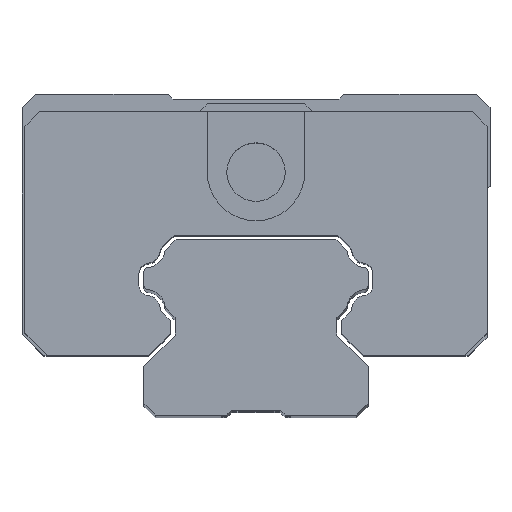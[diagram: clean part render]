
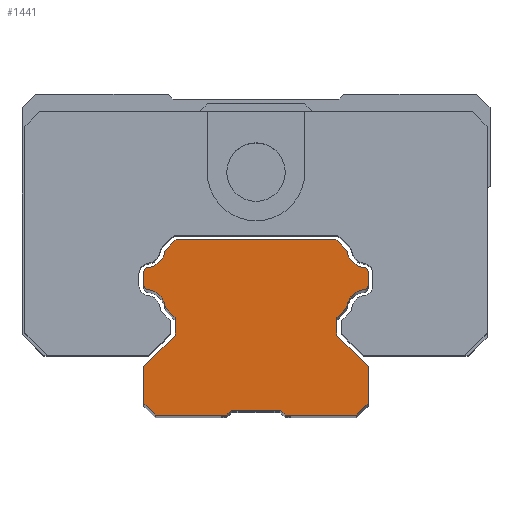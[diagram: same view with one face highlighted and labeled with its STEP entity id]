
A CAD part, top view. The second image highlights one B-rep face of the part: STEP entity #1441.
In plain terms, the highlighted planar face has unit normal (0, 0, 1).
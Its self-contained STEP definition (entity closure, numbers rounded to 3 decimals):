
#1=DIRECTION('',(0.,-1.,0.));
#2=VECTOR('',#1,1.8);
#3=CARTESIAN_POINT('',(-8.3,-8.,60.));
#4=LINE('',#3,#2);
#41=DIRECTION('',(0.,-1.,0.));
#42=VECTOR('',#41,1.289);
#43=CARTESIAN_POINT('',(-11.5,-3.365,60.));
#44=LINE('',#43,#42);
#73=DIRECTION('',(-1.,0.,0.));
#74=VECTOR('',#73,16.392);
#75=CARTESIAN_POINT('',(8.196,0.,60.));
#76=LINE('',#75,#74);
#143=DIRECTION('',(0.,1.,0.));
#144=VECTOR('',#143,1.289);
#145=CARTESIAN_POINT('',(11.5,-4.654,60.));
#146=LINE('',#145,#144);
#175=DIRECTION('',(0.,1.,0.));
#176=VECTOR('',#175,1.8);
#177=CARTESIAN_POINT('',(8.3,-9.8,60.));
#178=LINE('',#177,#176);
#315=DIRECTION('',(0.,-1.,0.));
#316=VECTOR('',#315,3.8);
#317=CARTESIAN_POINT('',(-11.5,-13.,60.));
#318=LINE('',#317,#316);
#319=CARTESIAN_POINT('',(11.,-3.365,60.));
#320=DIRECTION('',(0.,0.,-1.));
#321=DIRECTION('',(0.121,0.993,0.));
#322=AXIS2_PLACEMENT_3D('',#319,#320,#321);
#324=CARTESIAN_POINT('',(11.,-4.654,60.));
#325=DIRECTION('',(0.,0.,-1.));
#326=DIRECTION('',(1.,0.,0.));
#327=AXIS2_PLACEMENT_3D('',#324,#325,#326);
#329=CARTESIAN_POINT('',(11.3,-7.136,60.));
#330=DIRECTION('',(0.,0.,1.));
#331=DIRECTION('',(-0.12,0.993,0.));
#332=AXIS2_PLACEMENT_3D('',#329,#330,#331);
#334=DIRECTION('',(-0.707,-0.707,0.));
#335=VECTOR('',#334,1.421);
#336=CARTESIAN_POINT('',(9.305,-6.995,60.));
#337=LINE('',#336,#335);
#338=DIRECTION('',(0.707,-0.707,0.));
#339=VECTOR('',#338,4.525);
#340=CARTESIAN_POINT('',(8.3,-9.8,60.));
#341=LINE('',#340,#339);
#342=DIRECTION('',(-0.707,-0.707,0.));
#343=VECTOR('',#342,1.697);
#344=CARTESIAN_POINT('',(11.5,-16.8,60.));
#345=LINE('',#344,#343);
#346=DIRECTION('',(-0.707,0.707,0.));
#347=VECTOR('',#346,0.707);
#348=CARTESIAN_POINT('',(3.,-18.,60.));
#349=LINE('',#348,#347);
#350=DIRECTION('',(-0.707,-0.707,0.));
#351=VECTOR('',#350,0.707);
#352=CARTESIAN_POINT('',(-2.5,-17.5,60.));
#353=LINE('',#352,#351);
#354=DIRECTION('',(-0.707,0.707,0.));
#355=VECTOR('',#354,1.697);
#356=CARTESIAN_POINT('',(-10.3,-18.,60.));
#357=LINE('',#356,#355);
#358=DIRECTION('',(0.707,0.707,0.));
#359=VECTOR('',#358,4.525);
#360=CARTESIAN_POINT('',(-11.5,-13.,60.));
#361=LINE('',#360,#359);
#362=DIRECTION('',(-0.707,0.707,0.));
#363=VECTOR('',#362,1.421);
#364=CARTESIAN_POINT('',(-8.3,-8.,60.));
#365=LINE('',#364,#363);
#366=CARTESIAN_POINT('',(-11.3,-7.136,60.));
#367=DIRECTION('',(0.,0.,1.));
#368=DIRECTION('',(0.998,0.07,0.));
#369=AXIS2_PLACEMENT_3D('',#366,#367,#368);
#371=CARTESIAN_POINT('',(-11.,-4.654,60.));
#372=DIRECTION('',(0.,0.,-1.));
#373=DIRECTION('',(-0.121,-0.993,0.));
#374=AXIS2_PLACEMENT_3D('',#371,#372,#373);
#376=CARTESIAN_POINT('',(-11.,-3.365,60.));
#377=DIRECTION('',(0.,0.,-1.));
#378=DIRECTION('',(-1.,0.,0.));
#379=AXIS2_PLACEMENT_3D('',#376,#377,#378);
#381=CARTESIAN_POINT('',(-11.3,-0.883,60.));
#382=DIRECTION('',(0.,0.,1.));
#383=DIRECTION('',(0.12,-0.993,0.));
#384=AXIS2_PLACEMENT_3D('',#381,#382,#383);
#386=DIRECTION('',(0.707,0.707,0.));
#387=VECTOR('',#386,1.581);
#388=CARTESIAN_POINT('',(-9.314,-1.118,60.));
#389=LINE('',#388,#387);
#390=DIRECTION('',(0.707,-0.707,0.));
#391=VECTOR('',#390,1.581);
#392=CARTESIAN_POINT('',(8.196,0.,60.));
#393=LINE('',#392,#391);
#394=CARTESIAN_POINT('',(11.3,-0.883,60.));
#395=DIRECTION('',(0.,0.,1.));
#396=DIRECTION('',(-0.993,-0.118,0.));
#397=AXIS2_PLACEMENT_3D('',#394,#395,#396);
#403=DIRECTION('',(0.,1.,0.));
#404=VECTOR('',#403,3.8);
#405=CARTESIAN_POINT('',(11.5,-16.8,60.));
#406=LINE('',#405,#404);
#439=DIRECTION('',(1.,0.,0.));
#440=VECTOR('',#439,7.3);
#441=CARTESIAN_POINT('',(3.,-18.,60.));
#442=LINE('',#441,#440);
#506=DIRECTION('',(1.,0.,0.));
#507=VECTOR('',#506,7.3);
#508=CARTESIAN_POINT('',(-10.3,-18.,60.));
#509=LINE('',#508,#507);
#740=DIRECTION('',(1.,0.,0.));
#741=VECTOR('',#740,5.);
#742=CARTESIAN_POINT('',(-2.5,-17.5,60.));
#743=LINE('',#742,#741);
#753=CARTESIAN_POINT('',(-8.3,-9.8,60.));
#755=VERTEX_POINT('',#753);
#757=CARTESIAN_POINT('',(-11.5,-13.,60.));
#758=VERTEX_POINT('',#757);
#761=CARTESIAN_POINT('',(-8.3,-8.,60.));
#763=VERTEX_POINT('',#761);
#765=CARTESIAN_POINT('',(-9.305,-6.995,60.));
#767=VERTEX_POINT('',#765);
#773=CARTESIAN_POINT('',(-11.06,-5.15,60.));
#774=VERTEX_POINT('',#773);
#781=CARTESIAN_POINT('',(-11.5,-4.654,60.));
#782=VERTEX_POINT('',#781);
#789=CARTESIAN_POINT('',(-11.5,-3.365,60.));
#790=VERTEX_POINT('',#789);
#797=CARTESIAN_POINT('',(-11.06,-2.868,60.));
#798=VERTEX_POINT('',#797);
#802=CARTESIAN_POINT('',(-9.314,-1.118,60.));
#804=VERTEX_POINT('',#802);
#805=CARTESIAN_POINT('',(-8.196,0.,60.));
#807=VERTEX_POINT('',#805);
#809=CARTESIAN_POINT('',(8.196,0.,60.));
#811=VERTEX_POINT('',#809);
#825=CARTESIAN_POINT('',(9.314,-1.118,60.));
#827=VERTEX_POINT('',#825);
#833=CARTESIAN_POINT('',(11.06,-2.868,60.));
#834=VERTEX_POINT('',#833);
#841=CARTESIAN_POINT('',(11.5,-3.365,60.));
#842=VERTEX_POINT('',#841);
#849=CARTESIAN_POINT('',(11.5,-4.654,60.));
#850=VERTEX_POINT('',#849);
#857=CARTESIAN_POINT('',(11.06,-5.15,60.));
#858=VERTEX_POINT('',#857);
#862=CARTESIAN_POINT('',(9.305,-6.995,60.));
#864=VERTEX_POINT('',#862);
#865=CARTESIAN_POINT('',(8.3,-8.,60.));
#867=VERTEX_POINT('',#865);
#869=CARTESIAN_POINT('',(8.3,-9.8,60.));
#871=VERTEX_POINT('',#869);
#875=CARTESIAN_POINT('',(11.5,-13.,60.));
#876=VERTEX_POINT('',#875);
#893=CARTESIAN_POINT('',(-11.5,-16.8,60.));
#894=VERTEX_POINT('',#893);
#895=CARTESIAN_POINT('',(11.5,-16.8,60.));
#896=VERTEX_POINT('',#895);
#897=CARTESIAN_POINT('',(10.3,-18.,60.));
#898=VERTEX_POINT('',#897);
#899=CARTESIAN_POINT('',(3.,-18.,60.));
#900=VERTEX_POINT('',#899);
#901=CARTESIAN_POINT('',(2.5,-17.5,60.));
#902=VERTEX_POINT('',#901);
#903=CARTESIAN_POINT('',(-2.5,-17.5,60.));
#904=VERTEX_POINT('',#903);
#905=CARTESIAN_POINT('',(-3.,-18.,60.));
#906=VERTEX_POINT('',#905);
#907=CARTESIAN_POINT('',(-10.3,-18.,60.));
#908=VERTEX_POINT('',#907);
#1398=CARTESIAN_POINT('',(-36.5,15.,60.));
#1399=DIRECTION('',(0.,0.,1.));
#1400=DIRECTION('',(1.,0.,0.));
#1401=AXIS2_PLACEMENT_3D('',#1398,#1399,#1400);
#1402=PLANE('',#1401);
#1403=ORIENTED_EDGE('',*,*,#1223,.T.);
#1404=ORIENTED_EDGE('',*,*,#1244,.F.);
#1405=ORIENTED_EDGE('',*,*,#1265,.T.);
#1406=ORIENTED_EDGE('',*,*,#1284,.T.);
#1407=ORIENTED_EDGE('',*,*,#1301,.T.);
#1408=ORIENTED_EDGE('',*,*,#1316,.F.);
#1409=ORIENTED_EDGE('',*,*,#1334,.T.);
#1411=ORIENTED_EDGE('',*,*,#1410,.F.);
#1413=ORIENTED_EDGE('',*,*,#1412,.T.);
#1415=ORIENTED_EDGE('',*,*,#1414,.F.);
#1417=ORIENTED_EDGE('',*,*,#1416,.T.);
#1419=ORIENTED_EDGE('',*,*,#1418,.F.);
#1421=ORIENTED_EDGE('',*,*,#1420,.T.);
#1423=ORIENTED_EDGE('',*,*,#1422,.F.);
#1425=ORIENTED_EDGE('',*,*,#1424,.T.);
#1426=ORIENTED_EDGE('',*,*,#1391,.F.);
#1427=ORIENTED_EDGE('',*,*,#994,.T.);
#1428=ORIENTED_EDGE('',*,*,#1010,.F.);
#1429=ORIENTED_EDGE('',*,*,#1025,.T.);
#1430=ORIENTED_EDGE('',*,*,#1042,.T.);
#1431=ORIENTED_EDGE('',*,*,#1061,.T.);
#1432=ORIENTED_EDGE('',*,*,#1082,.F.);
#1433=ORIENTED_EDGE('',*,*,#1103,.T.);
#1434=ORIENTED_EDGE('',*,*,#1122,.T.);
#1435=ORIENTED_EDGE('',*,*,#1139,.T.);
#1436=ORIENTED_EDGE('',*,*,#1154,.F.);
#1437=ORIENTED_EDGE('',*,*,#1187,.T.);
#1438=ORIENTED_EDGE('',*,*,#1204,.T.);
#1439=EDGE_LOOP('',(#1403,#1404,#1405,#1406,#1407,#1408,#1409,#1411,#1413,#1415,
#1417,#1419,#1421,#1423,#1425,#1426,#1427,#1428,#1429,#1430,#1431,#1432,#1433,
#1434,#1435,#1436,#1437,#1438));
#1440=FACE_OUTER_BOUND('',#1439,.F.);
#1441=ADVANCED_FACE('',(#1440),#1402,.T.);
#323=CIRCLE('',#322,0.5);
#328=CIRCLE('',#327,0.5);
#333=CIRCLE('',#332,2.);
#370=CIRCLE('',#369,2.);
#375=CIRCLE('',#374,0.5);
#380=CIRCLE('',#379,0.5);
#385=CIRCLE('',#384,2.);
#398=CIRCLE('',#397,2.);
#994=EDGE_CURVE('',#758,#755,#361,.T.);
#1010=EDGE_CURVE('',#763,#755,#4,.T.);
#1025=EDGE_CURVE('',#763,#767,#365,.T.);
#1042=EDGE_CURVE('',#767,#774,#370,.T.);
#1061=EDGE_CURVE('',#774,#782,#375,.T.);
#1082=EDGE_CURVE('',#790,#782,#44,.T.);
#1103=EDGE_CURVE('',#790,#798,#380,.T.);
#1122=EDGE_CURVE('',#798,#804,#385,.T.);
#1139=EDGE_CURVE('',#804,#807,#389,.T.);
#1154=EDGE_CURVE('',#811,#807,#76,.T.);
#1187=EDGE_CURVE('',#811,#827,#393,.T.);
#1204=EDGE_CURVE('',#827,#834,#398,.T.);
#1223=EDGE_CURVE('',#834,#842,#323,.T.);
#1244=EDGE_CURVE('',#850,#842,#146,.T.);
#1265=EDGE_CURVE('',#850,#858,#328,.T.);
#1284=EDGE_CURVE('',#858,#864,#333,.T.);
#1301=EDGE_CURVE('',#864,#867,#337,.T.);
#1316=EDGE_CURVE('',#871,#867,#178,.T.);
#1334=EDGE_CURVE('',#871,#876,#341,.T.);
#1391=EDGE_CURVE('',#758,#894,#318,.T.);
#1410=EDGE_CURVE('',#896,#876,#406,.T.);
#1412=EDGE_CURVE('',#896,#898,#345,.T.);
#1414=EDGE_CURVE('',#900,#898,#442,.T.);
#1416=EDGE_CURVE('',#900,#902,#349,.T.);
#1418=EDGE_CURVE('',#904,#902,#743,.T.);
#1420=EDGE_CURVE('',#904,#906,#353,.T.);
#1422=EDGE_CURVE('',#908,#906,#509,.T.);
#1424=EDGE_CURVE('',#908,#894,#357,.T.);
